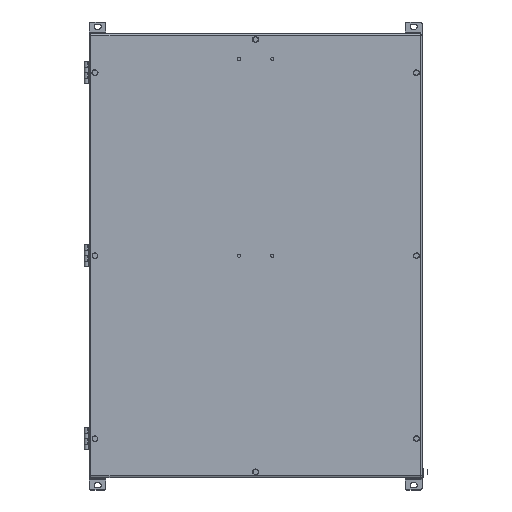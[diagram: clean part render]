
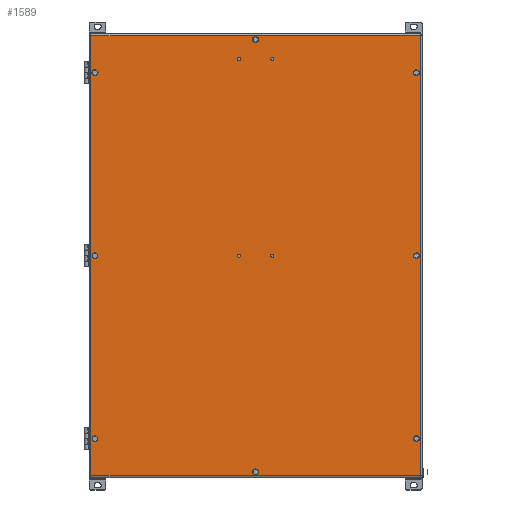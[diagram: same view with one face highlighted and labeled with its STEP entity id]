
A CAD part, top view. The second image highlights one B-rep face of the part: STEP entity #1589.
In plain terms, the highlighted planar face has unit normal (0, 0, 1).
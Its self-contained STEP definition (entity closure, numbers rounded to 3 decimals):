
#975=CARTESIAN_POINT('',(297.,-397.0,300.5));
#976=VERTEX_POINT('',#975);
#1042=CARTESIAN_POINT('',(297.,397.0,300.5));
#1043=VERTEX_POINT('',#1042);
#1149=CARTESIAN_POINT('',(-297.,-397.0,300.5));
#1150=VERTEX_POINT('',#1149);
#1165=CARTESIAN_POINT('',(297.,-397.0,300.5));
#1166=DIRECTION('',(-1.0,0.0,0.0));
#1167=VECTOR('',#1166,594.);
#1168=LINE('',#1165,#1167);
#1169=EDGE_CURVE('',#976,#1150,#1168,.T.);
#1221=CARTESIAN_POINT('',(-297.0,397.0,300.5));
#1222=VERTEX_POINT('',#1221);
#1243=CARTESIAN_POINT('',(-297.,-397.,300.5));
#1244=DIRECTION('',(0.0,1.0,0.0));
#1245=VECTOR('',#1244,794.0);
#1246=LINE('',#1243,#1245);
#1247=EDGE_CURVE('',#1150,#1222,#1246,.T.);
#1271=CARTESIAN_POINT('',(-297.0,397.0,300.5));
#1272=DIRECTION('',(1.0,0.0,0.0));
#1273=VECTOR('',#1272,594.0);
#1274=LINE('',#1271,#1273);
#1275=EDGE_CURVE('',#1222,#1043,#1274,.T.);
#1293=CARTESIAN_POINT('',(297.,397.0,300.5));
#1294=DIRECTION('',(0.0,-1.0,0.0));
#1295=VECTOR('',#1294,794.0);
#1296=LINE('',#1293,#1295);
#1297=EDGE_CURVE('',#1043,#976,#1296,.T.);
#1446=CARTESIAN_POINT('',(0.,0.,300.5));
#1447=DIRECTION('',(0.0,0.0,1.0));
#1448=DIRECTION('',(1.0,0.0,0.0));
#1449=AXIS2_PLACEMENT_3D('',#1446,#1447,#1448);
#1450=PLANE('',#1449);
#1451=ORIENTED_EDGE('',*,*,#1169,.F.);
#1452=ORIENTED_EDGE('',*,*,#1297,.F.);
#1453=ORIENTED_EDGE('',*,*,#1275,.F.);
#1454=ORIENTED_EDGE('',*,*,#1247,.F.);
#1455=EDGE_LOOP('',(#1451,#1452,#1453,#1454));
#1456=FACE_OUTER_BOUND('',#1455,.T.);
#1457=CARTESIAN_POINT('',(-286.25,330.0,300.5));
#1458=VERTEX_POINT('',#1457);
#1459=CARTESIAN_POINT('',(-290.,330.0,300.5));
#1460=DIRECTION('',(0.0,0.0,-1.0));
#1461=DIRECTION('',(-1.0,0.0,0.0));
#1462=AXIS2_PLACEMENT_3D('',#1459,#1460,#1461);
#1463=CIRCLE('',#1462,3.75);
#1464=EDGE_CURVE('',#1458,#1458,#1463,.T.);
#1465=ORIENTED_EDGE('',*,*,#1464,.T.);
#1466=EDGE_LOOP('',(#1465));
#1467=FACE_BOUND('',#1466,.T.);
#1468=CARTESIAN_POINT('',(293.75,330.0,300.5));
#1469=VERTEX_POINT('',#1468);
#1470=CARTESIAN_POINT('',(290.,330.0,300.5));
#1471=DIRECTION('',(0.0,0.0,-1.0));
#1472=DIRECTION('',(-1.0,0.0,0.0));
#1473=AXIS2_PLACEMENT_3D('',#1470,#1471,#1472);
#1474=CIRCLE('',#1473,3.75);
#1475=EDGE_CURVE('',#1469,#1469,#1474,.T.);
#1476=ORIENTED_EDGE('',*,*,#1475,.T.);
#1477=EDGE_LOOP('',(#1476));
#1478=FACE_BOUND('',#1477,.T.);
#1479=CARTESIAN_POINT('',(-286.25,0.,300.5));
#1480=VERTEX_POINT('',#1479);
#1481=CARTESIAN_POINT('',(-290.,0.,300.5));
#1482=DIRECTION('',(0.0,0.0,-1.0));
#1483=DIRECTION('',(-1.0,0.0,0.0));
#1484=AXIS2_PLACEMENT_3D('',#1481,#1482,#1483);
#1485=CIRCLE('',#1484,3.75);
#1486=EDGE_CURVE('',#1480,#1480,#1485,.T.);
#1487=ORIENTED_EDGE('',*,*,#1486,.T.);
#1488=EDGE_LOOP('',(#1487));
#1489=FACE_BOUND('',#1488,.T.);
#1490=CARTESIAN_POINT('',(293.75,0.,300.5));
#1491=VERTEX_POINT('',#1490);
#1492=CARTESIAN_POINT('',(290.,0.,300.5));
#1493=DIRECTION('',(0.0,0.0,-1.0));
#1494=DIRECTION('',(-1.0,0.0,0.0));
#1495=AXIS2_PLACEMENT_3D('',#1492,#1493,#1494);
#1496=CIRCLE('',#1495,3.75);
#1497=EDGE_CURVE('',#1491,#1491,#1496,.T.);
#1498=ORIENTED_EDGE('',*,*,#1497,.T.);
#1499=EDGE_LOOP('',(#1498));
#1500=FACE_BOUND('',#1499,.T.);
#1501=CARTESIAN_POINT('',(-286.25,-330.0,300.5));
#1502=VERTEX_POINT('',#1501);
#1503=CARTESIAN_POINT('',(-290.,-330.0,300.5));
#1504=DIRECTION('',(0.0,0.0,-1.0));
#1505=DIRECTION('',(-1.0,0.0,0.0));
#1506=AXIS2_PLACEMENT_3D('',#1503,#1504,#1505);
#1507=CIRCLE('',#1506,3.75);
#1508=EDGE_CURVE('',#1502,#1502,#1507,.T.);
#1509=ORIENTED_EDGE('',*,*,#1508,.T.);
#1510=EDGE_LOOP('',(#1509));
#1511=FACE_BOUND('',#1510,.T.);
#1512=CARTESIAN_POINT('',(293.75,-330.0,300.5));
#1513=VERTEX_POINT('',#1512);
#1514=CARTESIAN_POINT('',(290.,-330.0,300.5));
#1515=DIRECTION('',(0.0,0.0,-1.0));
#1516=DIRECTION('',(-1.0,0.0,0.0));
#1517=AXIS2_PLACEMENT_3D('',#1514,#1515,#1516);
#1518=CIRCLE('',#1517,3.75);
#1519=EDGE_CURVE('',#1513,#1513,#1518,.T.);
#1520=ORIENTED_EDGE('',*,*,#1519,.T.);
#1521=EDGE_LOOP('',(#1520));
#1522=FACE_BOUND('',#1521,.T.);
#1523=CARTESIAN_POINT('',(3.75,390.0,300.5));
#1524=VERTEX_POINT('',#1523);
#1525=CARTESIAN_POINT('',(0.,390.0,300.5));
#1526=DIRECTION('',(0.0,0.0,-1.0));
#1527=DIRECTION('',(-1.0,0.0,0.0));
#1528=AXIS2_PLACEMENT_3D('',#1525,#1526,#1527);
#1529=CIRCLE('',#1528,3.75);
#1530=EDGE_CURVE('',#1524,#1524,#1529,.T.);
#1531=ORIENTED_EDGE('',*,*,#1530,.T.);
#1532=EDGE_LOOP('',(#1531));
#1533=FACE_BOUND('',#1532,.T.);
#1534=CARTESIAN_POINT('',(3.75,-390.0,300.5));
#1535=VERTEX_POINT('',#1534);
#1536=CARTESIAN_POINT('',(0.,-390.0,300.5));
#1537=DIRECTION('',(0.0,0.0,-1.0));
#1538=DIRECTION('',(-1.0,0.0,0.0));
#1539=AXIS2_PLACEMENT_3D('',#1536,#1537,#1538);
#1540=CIRCLE('',#1539,3.75);
#1541=EDGE_CURVE('',#1535,#1535,#1540,.T.);
#1542=ORIENTED_EDGE('',*,*,#1541,.T.);
#1543=EDGE_LOOP('',(#1542));
#1544=FACE_BOUND('',#1543,.T.);
#1545=CARTESIAN_POINT('',(33.05,355.0,300.5));
#1546=VERTEX_POINT('',#1545);
#1547=CARTESIAN_POINT('',(30.,355.0,300.5));
#1548=DIRECTION('',(0.0,0.0,-1.0));
#1549=DIRECTION('',(-1.0,0.0,0.0));
#1550=AXIS2_PLACEMENT_3D('',#1547,#1548,#1549);
#1551=CIRCLE('',#1550,3.05);
#1552=EDGE_CURVE('',#1546,#1546,#1551,.T.);
#1553=ORIENTED_EDGE('',*,*,#1552,.T.);
#1554=EDGE_LOOP('',(#1553));
#1555=FACE_BOUND('',#1554,.T.);
#1556=CARTESIAN_POINT('',(-26.95,355.0,300.5));
#1557=VERTEX_POINT('',#1556);
#1558=CARTESIAN_POINT('',(-30.,355.0,300.5));
#1559=DIRECTION('',(0.0,0.0,-1.0));
#1560=DIRECTION('',(-1.0,0.0,0.0));
#1561=AXIS2_PLACEMENT_3D('',#1558,#1559,#1560);
#1562=CIRCLE('',#1561,3.05);
#1563=EDGE_CURVE('',#1557,#1557,#1562,.T.);
#1564=ORIENTED_EDGE('',*,*,#1563,.T.);
#1565=EDGE_LOOP('',(#1564));
#1566=FACE_BOUND('',#1565,.T.);
#1567=CARTESIAN_POINT('',(-26.95,0.,300.5));
#1568=VERTEX_POINT('',#1567);
#1569=CARTESIAN_POINT('',(-30.,0.,300.5));
#1570=DIRECTION('',(0.0,0.0,-1.0));
#1571=DIRECTION('',(-1.0,0.0,0.0));
#1572=AXIS2_PLACEMENT_3D('',#1569,#1570,#1571);
#1573=CIRCLE('',#1572,3.05);
#1574=EDGE_CURVE('',#1568,#1568,#1573,.T.);
#1575=ORIENTED_EDGE('',*,*,#1574,.T.);
#1576=EDGE_LOOP('',(#1575));
#1577=FACE_BOUND('',#1576,.T.);
#1578=CARTESIAN_POINT('',(33.05,0.,300.5));
#1579=VERTEX_POINT('',#1578);
#1580=CARTESIAN_POINT('',(30.,0.,300.5));
#1581=DIRECTION('',(0.0,0.0,-1.0));
#1582=DIRECTION('',(-1.0,0.0,0.0));
#1583=AXIS2_PLACEMENT_3D('',#1580,#1581,#1582);
#1584=CIRCLE('',#1583,3.05);
#1585=EDGE_CURVE('',#1579,#1579,#1584,.T.);
#1586=ORIENTED_EDGE('',*,*,#1585,.T.);
#1587=EDGE_LOOP('',(#1586));
#1588=FACE_BOUND('',#1587,.T.);
#1589=ADVANCED_FACE('',(#1456,#1467,#1478,#1489,#1500,#1511,#1522,#1533,#1544,#1555,#1566,#1577,#1588),#1450,.T.);
